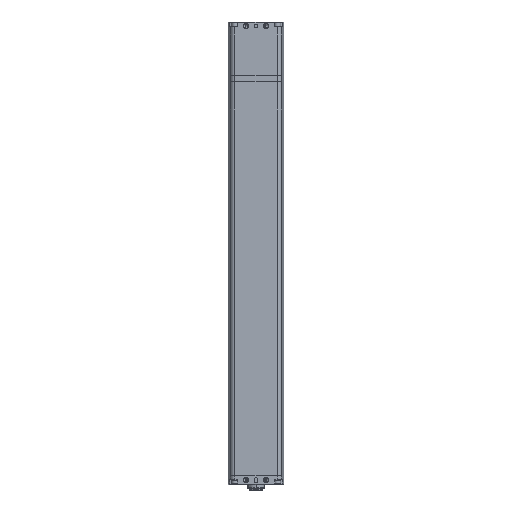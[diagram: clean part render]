
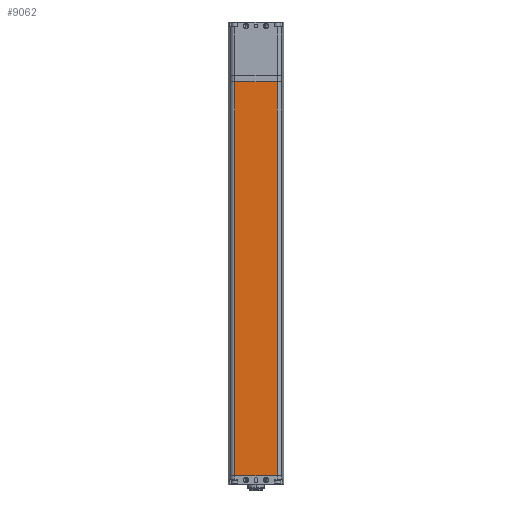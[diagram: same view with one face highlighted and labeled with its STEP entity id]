
A CAD part, front view. The second image highlights one B-rep face of the part: STEP entity #9062.
In plain terms, the highlighted planar face has unit normal (0, -1, 0).
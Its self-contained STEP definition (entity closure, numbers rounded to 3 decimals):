
#101 = EDGE_LOOP ( 'NONE', ( #8241, #22987, #23108, #4700 ) ) ;
#226 = EDGE_CURVE ( 'NONE', #6622, #21511, #21348, .T. ) ;
#1314 = LINE ( 'NONE', #6676, #23286 ) ;
#3434 = LINE ( 'NONE', #21633, #12409 ) ;
#4275 = CARTESIAN_POINT ( 'NONE',  ( -41., -41., -1073. ) ) ;
#4588 = DIRECTION ( 'NONE',  ( 0., 0., 1. ) ) ;
#4700 = ORIENTED_EDGE ( 'NONE', *, *, #8286, .F. ) ;
#4968 = VECTOR ( 'NONE', #4588, 1000. ) ;
#6622 = VERTEX_POINT ( 'NONE', #14559 ) ;
#6676 = CARTESIAN_POINT ( 'NONE',  ( -31.138, -41., -1073. ) ) ;
#8049 = PLANE ( 'NONE',  #21059 ) ;
#8241 = ORIENTED_EDGE ( 'NONE', *, *, #21232, .T. ) ;
#8286 = EDGE_CURVE ( 'NONE', #18744, #23975, #3434, .T. ) ;
#8559 = DIRECTION ( 'NONE',  ( 1., 0., 0. ) ) ;
#9062 = ADVANCED_FACE ( 'NONE', ( #11830 ), #8049, .T. ) ;
#11659 = CARTESIAN_POINT ( 'NONE',  ( 31.138, -41., -651. ) ) ;
#11800 = DIRECTION ( 'NONE',  ( 1., 0., 0. ) ) ;
#11830 = FACE_OUTER_BOUND ( 'NONE', #101, .T. ) ;
#11901 = LINE ( 'NONE', #21099, #4968 ) ;
#12409 = VECTOR ( 'NONE', #8559, 1000. ) ;
#13118 = CARTESIAN_POINT ( 'NONE',  ( -31.138, -41., -73. ) ) ;
#14559 = CARTESIAN_POINT ( 'NONE',  ( -31.138, -41., -651. ) ) ;
#15091 = VECTOR ( 'NONE', #11800, 1000. ) ;
#15530 = DIRECTION ( 'NONE',  ( 0., -1., 0. ) ) ;
#16016 = EDGE_CURVE ( 'NONE', #21511, #23975, #11901, .T. ) ;
#17814 = CARTESIAN_POINT ( 'NONE',  ( -41., -41., -651. ) ) ;
#18744 = VERTEX_POINT ( 'NONE', #13118 ) ;
#19204 = DIRECTION ( 'NONE',  ( 0., 0., -1. ) ) ;
#21059 = AXIS2_PLACEMENT_3D ( 'NONE', #4275, #15530, #19204 ) ;
#21099 = CARTESIAN_POINT ( 'NONE',  ( 31.138, -41., -1073. ) ) ;
#21232 = EDGE_CURVE ( 'NONE', #18744, #6622, #1314, .T. ) ;
#21348 = LINE ( 'NONE', #17814, #15091 ) ;
#21511 = VERTEX_POINT ( 'NONE', #11659 ) ;
#21633 = CARTESIAN_POINT ( 'NONE',  ( -41., -41., -73. ) ) ;
#22987 = ORIENTED_EDGE ( 'NONE', *, *, #226, .T. ) ;
#23108 = ORIENTED_EDGE ( 'NONE', *, *, #16016, .T. ) ;
#23286 = VECTOR ( 'NONE', #23415, 1000. ) ;
#23415 = DIRECTION ( 'NONE',  ( 0., 0., -1. ) ) ;
#23423 = CARTESIAN_POINT ( 'NONE',  ( 31.138, -41., -73. ) ) ;
#23975 = VERTEX_POINT ( 'NONE', #23423 ) ;
